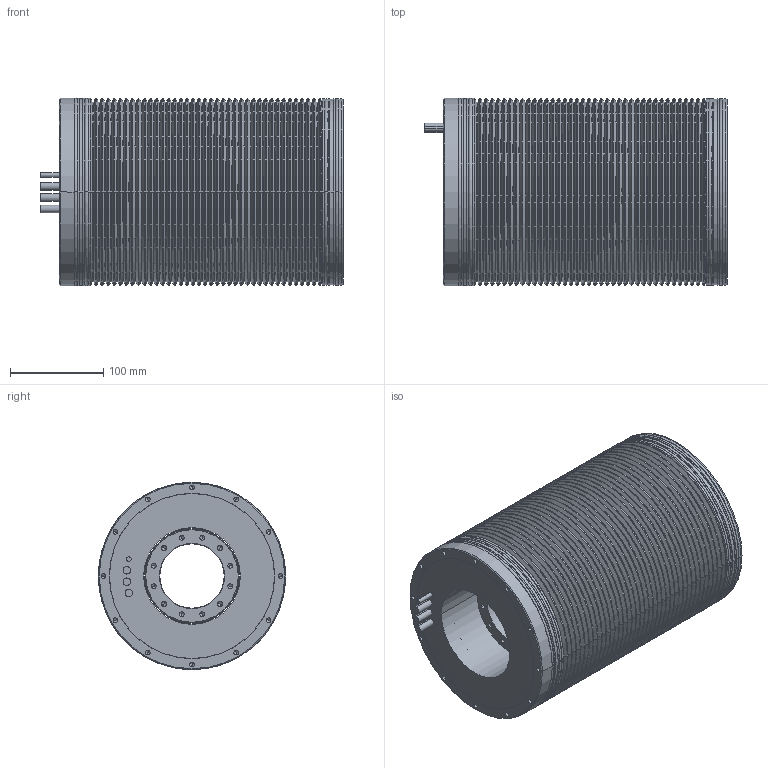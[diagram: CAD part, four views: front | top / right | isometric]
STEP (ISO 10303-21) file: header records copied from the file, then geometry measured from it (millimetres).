
FILE_DESCRIPTION((''),'2;1');
FILE_NAME('TK181-200','2017-10-26T',('stefanos'),(''),'CREO PARAMETRIC BY PTC INC, 2015480','CREO PARAMETRIC BY PTC INC, 2015480','');
FILE_SCHEMA(('CONFIG_CONTROL_DESIGN'));
Length unit declared in the file: millimetre
Products named in the file (1): TK181-200
Bounding box: 325 x 201 x 201 mm (x, y, z)
Volume: 7612548.8 mm3; surface area: 1173411.8 mm2
Topology: 9 solids, 9 shells, 613 faces, 1298 edges, 686 vertices
Faces by surface type: cylinder 296, cone 248, plane 37, torus 16, revolution 16
Entity records: 17092 total; most frequent: CARTESIAN_POINT 3965, DIRECTION 3054, ORIENTED_EDGE 2452, AXIS2_PLACEMENT_3D 1247, EDGE_CURVE 1226, VERTEX_POINT 686, EDGE_LOOP 686, CIRCLE 650
